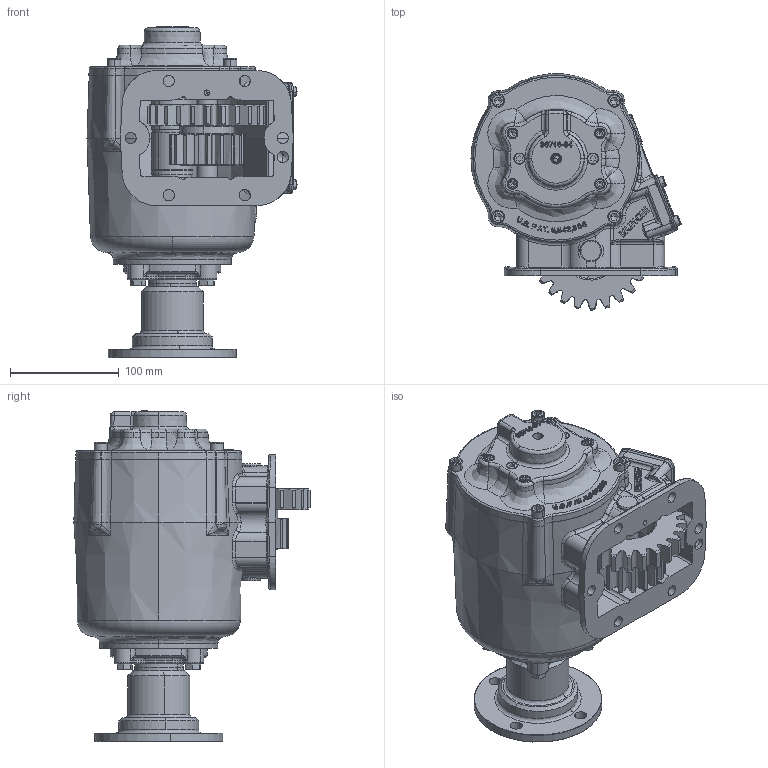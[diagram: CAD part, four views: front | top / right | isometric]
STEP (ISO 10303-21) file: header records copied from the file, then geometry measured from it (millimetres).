
FILE_DESCRIPTION (( 'STEP AP203' ), '1' );
FILE_NAME ('CS6S-A6804-E1CX.STEP', '2023-04-03T15:28:20', ( '' ), ( '' ), 'SwSTEP 2.0', 'SolidWorks 2021', '' );
FILE_SCHEMA (( 'CONFIG_CONTROL_DESIGN' ));
Length unit declared in the file: millimetre
Products named in the file (24): 12T35949; 19T36174; 03T37069; 06T41013_06T41013; 19T41118; 19T34717; 14T37357; 27T36173_Free Length; 19T35237; CS6S-A6804-E1CX; 21T20092; 28T36546; 10T21017; 01T37073; 19T38266; 15T36717; 12T36751; 19T36082; 15T41683; 25T21684; 12T34003; 15TA5220_Config1; 16T41119; 07T37071
Assembly tree (40 placements, depth 3):
  CS6S-A6804-E1CX
    01T37073
    16T41119
    19T41118  x4
    15T36717
    12T34003
    19T35237  x4
    10T21017
    12T36751
    28T36546
    07T37071
    12T35949  x2
    27T36173_Free Length  x4
    19T36174  x4
    25T21684  x2
    19T34717  x4
    19T36082
    14T37357
    21T20092
    19T38266
    15TA5220_Config1
      15T41683
    03T37069
    06T41013_06T41013
Bounding box: 192.82 x 216.84 x 304.38 mm (x, y, z)
Volume: 1790427.5 mm3; surface area: 516696.4 mm2
Topology: 39 solids, 39 shells, 3027 faces, 7741 edges, 4791 vertices
Faces by surface type: bspline 806, plane 778, cylinder 704, cone 498, torus 209, sphere 32
Entity records: 199070 total; most frequent: CARTESIAN_POINT 137073, ORIENTED_EDGE 13808, DIRECTION 9958, EDGE_CURVE 6904, VERTEX_POINT 4344, AXIS2_PLACEMENT_3D 3919, EDGE_LOOP 2902, B_SPLINE_CURVE_WITH_KNOTS 2752
